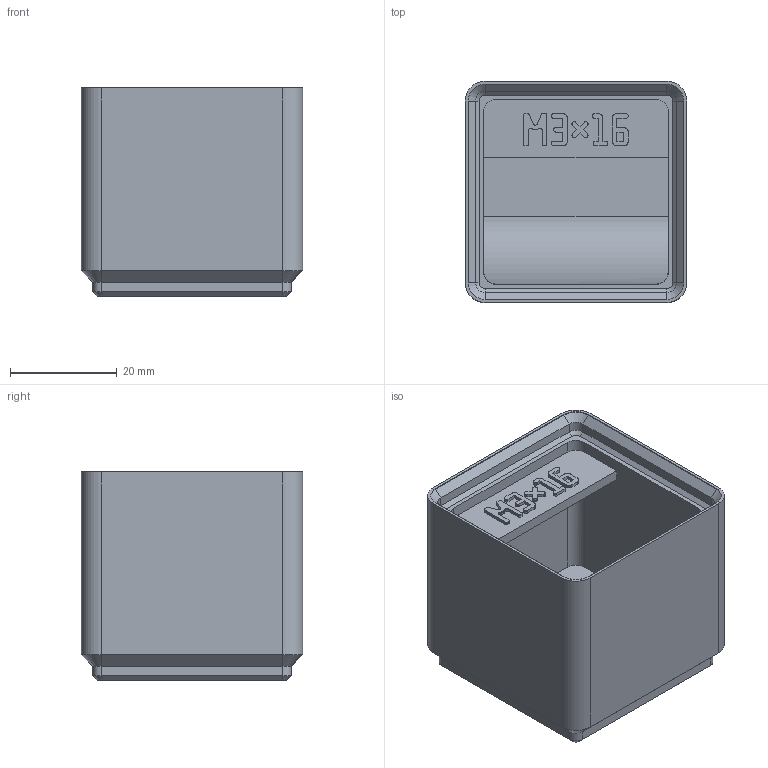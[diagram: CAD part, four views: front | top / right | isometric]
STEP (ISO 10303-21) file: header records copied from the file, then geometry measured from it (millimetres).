
FILE_DESCRIPTION(('Open CASCADE Model'),'2;1');
FILE_NAME('m3-screw-16','2026-11-17T16:08:09',('Author'),('Open CASCADE' ),'Open CASCADE STEP processor 8.0','build123d','Unknown');
FILE_SCHEMA(('AUTOMOTIVE_DESIGN { 1 0 10303 214 1 1 1 1 }'));
Length unit declared in the file: millimetre
Products named in the file (1): m3-screw-16
Bounding box: 41.5 x 41.5 x 39 mm (x, y, z)
Volume: 30861.7 mm3; surface area: 13677.6 mm2
Topology: 1 solids, 1 shells, 604 faces, 1734 edges, 1140 vertices
Faces by surface type: plane 565, cylinder 22, cone 16, extrusion 1
Entity records: 41048 total; most frequent: CARTESIAN_POINT 8490, DIRECTION 5279, VECTOR 3949, LINE 3948, ORIENTED_EDGE 3468, PCURVE 3468, DEFINITIONAL_REPRESENTATION 3468, EDGE_CURVE 1734
